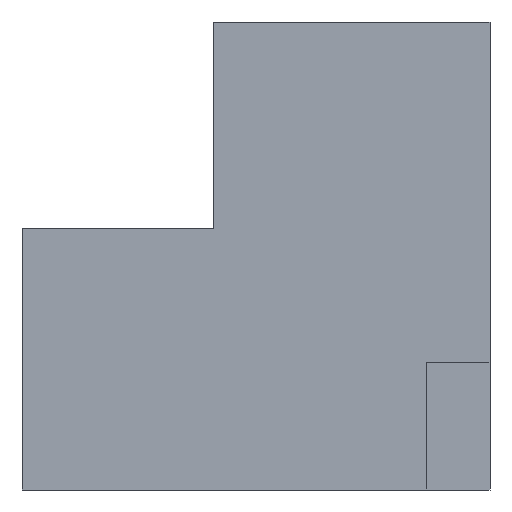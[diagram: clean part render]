
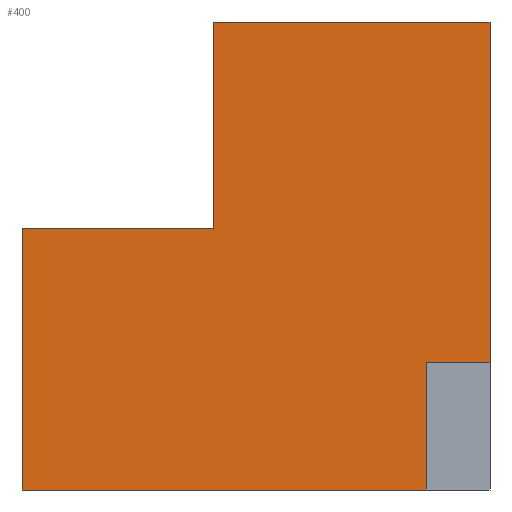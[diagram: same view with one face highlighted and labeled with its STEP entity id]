
A CAD part, front view. The second image highlights one B-rep face of the part: STEP entity #400.
In plain terms, the highlighted planar face has unit normal (0, -1, 0).
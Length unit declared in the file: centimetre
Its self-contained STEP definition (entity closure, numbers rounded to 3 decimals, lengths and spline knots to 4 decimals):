
#26 = DIRECTION ( 'NONE',  ( 0., 1., 0. ) ) ;
#32 = VERTEX_POINT ( 'NONE', #354 ) ;
#34 = VERTEX_POINT ( 'NONE', #464 ) ;
#52 = ORIENTED_EDGE ( 'NONE', *, *, #131, .T. ) ;
#57 = CARTESIAN_POINT ( 'NONE',  ( 0., 0., 1000. ) ) ;
#61 = CARTESIAN_POINT ( 'NONE',  ( 408.9524, 0., 558.479 ) ) ;
#80 = ORIENTED_EDGE ( 'NONE', *, *, #259, .T. ) ;
#98 = CARTESIAN_POINT ( 'NONE',  ( 864.0211, 0., 0. ) ) ;
#110 = LINE ( 'NONE', #118, #407 ) ;
#118 = CARTESIAN_POINT ( 'NONE',  ( 0., 0., 1000. ) ) ;
#130 = CARTESIAN_POINT ( 'NONE',  ( 0., 0., 1000. ) ) ;
#131 = EDGE_CURVE ( 'NONE', #654, #208, #213, .T. ) ;
#139 = VECTOR ( 'NONE', #660, 100. ) ;
#163 = EDGE_CURVE ( 'NONE', #233, #565, #357, .T. ) ;
#182 = LINE ( 'NONE', #459, #432 ) ;
#190 = EDGE_LOOP ( 'NONE', ( #80, #552, #331, #52, #519, #671, #510, #298 ) ) ;
#206 = CARTESIAN_POINT ( 'NONE',  ( 0., 0., 0. ) ) ;
#208 = VERTEX_POINT ( 'NONE', #98 ) ;
#213 = LINE ( 'NONE', #206, #274 ) ;
#214 = EDGE_CURVE ( 'NONE', #34, #615, #306, .T. ) ;
#233 = VERTEX_POINT ( 'NONE', #656 ) ;
#234 = LINE ( 'NONE', #562, #277 ) ;
#236 = EDGE_CURVE ( 'NONE', #615, #654, #110, .T. ) ;
#258 = DIRECTION ( 'NONE',  ( -1., 0., 0. ) ) ;
#259 = EDGE_CURVE ( 'NONE', #233, #34, #385, .T. ) ;
#274 = VECTOR ( 'NONE', #535, 100. ) ;
#277 = VECTOR ( 'NONE', #339, 100. ) ;
#298 = ORIENTED_EDGE ( 'NONE', *, *, #163, .F. ) ;
#299 = DIRECTION ( 'NONE',  ( 0., 0., 1. ) ) ;
#306 = LINE ( 'NONE', #527, #350 ) ;
#324 = EDGE_CURVE ( 'NONE', #32, #208, #332, .T. ) ;
#331 = ORIENTED_EDGE ( 'NONE', *, *, #236, .T. ) ;
#332 = LINE ( 'NONE', #549, #139 ) ;
#337 = AXIS2_PLACEMENT_3D ( 'NONE', #130, #26, #299 ) ;
#339 = DIRECTION ( 'NONE',  ( -1., 0., 0. ) ) ;
#350 = VECTOR ( 'NONE', #258, 100. ) ;
#354 = CARTESIAN_POINT ( 'NONE',  ( 864.0211, 0., 271.3699 ) ) ;
#357 = LINE ( 'NONE', #57, #406 ) ;
#385 = LINE ( 'NONE', #61, #639 ) ;
#389 = DIRECTION ( 'NONE',  ( 0., 0., -1. ) ) ;
#400 = ADVANCED_FACE ( 'NONE', ( #506 ), #619, .F. ) ;
#406 = VECTOR ( 'NONE', #573, 100. ) ;
#407 = VECTOR ( 'NONE', #603, 100. ) ;
#432 = VECTOR ( 'NONE', #389, 100. ) ;
#459 = CARTESIAN_POINT ( 'NONE',  ( 1000., 0., 1000. ) ) ;
#463 = CARTESIAN_POINT ( 'NONE',  ( 1000., 0., 1000. ) ) ;
#464 = CARTESIAN_POINT ( 'NONE',  ( 408.9524, 0., 558.479 ) ) ;
#482 = EDGE_CURVE ( 'NONE', #565, #609, #182, .T. ) ;
#499 = DIRECTION ( 'NONE',  ( 0., 0., -1. ) ) ;
#506 = FACE_OUTER_BOUND ( 'NONE', #190, .T. ) ;
#510 = ORIENTED_EDGE ( 'NONE', *, *, #482, .F. ) ;
#519 = ORIENTED_EDGE ( 'NONE', *, *, #324, .F. ) ;
#527 = CARTESIAN_POINT ( 'NONE',  ( 0., 0., 558.479 ) ) ;
#532 = EDGE_CURVE ( 'NONE', #609, #32, #234, .T. ) ;
#535 = DIRECTION ( 'NONE',  ( 1., 0., 0. ) ) ;
#549 = CARTESIAN_POINT ( 'NONE',  ( 864.0211, 0., 0. ) ) ;
#552 = ORIENTED_EDGE ( 'NONE', *, *, #214, .T. ) ;
#562 = CARTESIAN_POINT ( 'NONE',  ( 864.0211, 0., 271.3699 ) ) ;
#565 = VERTEX_POINT ( 'NONE', #463 ) ;
#573 = DIRECTION ( 'NONE',  ( 1., 0., 0. ) ) ;
#603 = DIRECTION ( 'NONE',  ( 0., 0., -1. ) ) ;
#609 = VERTEX_POINT ( 'NONE', #689 ) ;
#615 = VERTEX_POINT ( 'NONE', #644 ) ;
#619 = PLANE ( 'NONE',  #337 ) ;
#639 = VECTOR ( 'NONE', #499, 100. ) ;
#641 = CARTESIAN_POINT ( 'NONE',  ( 0., 0., 0. ) ) ;
#644 = CARTESIAN_POINT ( 'NONE',  ( 0., 0., 558.479 ) ) ;
#654 = VERTEX_POINT ( 'NONE', #641 ) ;
#656 = CARTESIAN_POINT ( 'NONE',  ( 408.9524, 0., 1000. ) ) ;
#660 = DIRECTION ( 'NONE',  ( 0., 0., -1. ) ) ;
#671 = ORIENTED_EDGE ( 'NONE', *, *, #532, .F. ) ;
#689 = CARTESIAN_POINT ( 'NONE',  ( 1000., 0., 271.3699 ) ) ;
